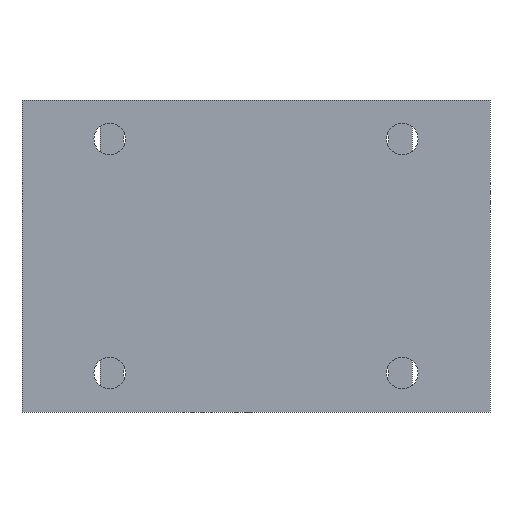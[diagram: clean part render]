
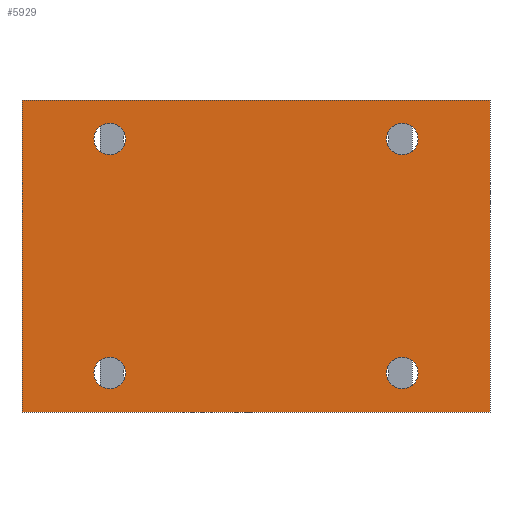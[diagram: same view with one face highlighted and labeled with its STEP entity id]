
A CAD part, front view. The second image highlights one B-rep face of the part: STEP entity #5929.
In plain terms, the highlighted planar face has unit normal (0, -1, 0).
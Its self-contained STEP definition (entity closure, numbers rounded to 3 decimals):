
#394=FACE_BOUND('',#966,.T.);
#395=FACE_BOUND('',#967,.T.);
#396=FACE_BOUND('',#968,.T.);
#397=FACE_BOUND('',#969,.T.);
#461=PLANE('',#6376);
#602=FACE_OUTER_BOUND('',#965,.T.);
#965=EDGE_LOOP('',(#4083,#4084,#4085,#4086));
#966=EDGE_LOOP('',(#4087));
#967=EDGE_LOOP('',(#4088));
#968=EDGE_LOOP('',(#4089));
#969=EDGE_LOOP('',(#4090));
#1383=LINE('',#8492,#1834);
#1387=LINE('',#8500,#1838);
#1390=LINE('',#8506,#1841);
#1393=LINE('',#8511,#1844);
#1834=VECTOR('',#7018,10.);
#1838=VECTOR('',#7024,10.);
#1841=VECTOR('',#7029,10.);
#1844=VECTOR('',#7034,10.);
#2246=CIRCLE('',#6361,10.3);
#2248=CIRCLE('',#6364,10.3);
#2250=CIRCLE('',#6367,10.3);
#2252=CIRCLE('',#6370,10.3);
#2435=VERTEX_POINT('',#8468);
#2437=VERTEX_POINT('',#8474);
#2439=VERTEX_POINT('',#8480);
#2441=VERTEX_POINT('',#8486);
#2442=VERTEX_POINT('',#8490);
#2443=VERTEX_POINT('',#8491);
#2446=VERTEX_POINT('',#8499);
#2448=VERTEX_POINT('',#8505);
#3057=EDGE_CURVE('',#2435,#2435,#2246,.T.);
#3060=EDGE_CURVE('',#2437,#2437,#2248,.T.);
#3063=EDGE_CURVE('',#2439,#2439,#2250,.T.);
#3066=EDGE_CURVE('',#2441,#2441,#2252,.T.);
#3067=EDGE_CURVE('',#2442,#2443,#1383,.T.);
#3071=EDGE_CURVE('',#2443,#2446,#1387,.T.);
#3074=EDGE_CURVE('',#2446,#2448,#1390,.T.);
#3077=EDGE_CURVE('',#2448,#2442,#1393,.T.);
#4083=ORIENTED_EDGE('',*,*,#3077,.T.);
#4084=ORIENTED_EDGE('',*,*,#3067,.T.);
#4085=ORIENTED_EDGE('',*,*,#3071,.T.);
#4086=ORIENTED_EDGE('',*,*,#3074,.T.);
#4087=ORIENTED_EDGE('',*,*,#3066,.F.);
#4088=ORIENTED_EDGE('',*,*,#3063,.F.);
#4089=ORIENTED_EDGE('',*,*,#3060,.F.);
#4090=ORIENTED_EDGE('',*,*,#3057,.F.);
#5929=ADVANCED_FACE('',(#602,#394,#395,#396,#397),#461,.F.);
#6361=AXIS2_PLACEMENT_3D('',#8470,#6993,#6994);
#6364=AXIS2_PLACEMENT_3D('',#8476,#7000,#7001);
#6367=AXIS2_PLACEMENT_3D('',#8482,#7007,#7008);
#6370=AXIS2_PLACEMENT_3D('',#8488,#7014,#7015);
#6376=AXIS2_PLACEMENT_3D('',#8514,#7038,#7039);
#6993=DIRECTION('center_axis',(0.,-1.,0.));
#6994=DIRECTION('ref_axis',(1.,0.,0.));
#7000=DIRECTION('center_axis',(0.,-1.,0.));
#7001=DIRECTION('ref_axis',(1.,0.,0.));
#7007=DIRECTION('center_axis',(0.,-1.,0.));
#7008=DIRECTION('ref_axis',(1.,0.,0.));
#7014=DIRECTION('center_axis',(0.,-1.,0.));
#7015=DIRECTION('ref_axis',(1.,0.,0.));
#7018=DIRECTION('',(0.,0.,1.));
#7024=DIRECTION('',(-1.,0.,0.));
#7029=DIRECTION('',(0.,0.,-1.));
#7034=DIRECTION('',(1.,0.,0.));
#7038=DIRECTION('center_axis',(0.,1.,0.));
#7039=DIRECTION('ref_axis',(1.,0.,0.));
#8468=CARTESIAN_POINT('',(-105.55,0.,-76.2));
#8470=CARTESIAN_POINT('Origin',(-95.25,0.,-76.2));
#8474=CARTESIAN_POINT('',(-105.55,0.,76.2));
#8476=CARTESIAN_POINT('Origin',(-95.25,0.,76.2));
#8480=CARTESIAN_POINT('',(84.95,0.,-76.2));
#8482=CARTESIAN_POINT('Origin',(95.25,0.,-76.2));
#8486=CARTESIAN_POINT('',(84.95,0.,76.2));
#8488=CARTESIAN_POINT('Origin',(95.25,0.,76.2));
#8490=CARTESIAN_POINT('',(152.4,0.,-101.6));
#8491=CARTESIAN_POINT('',(152.4,0.,101.6));
#8492=CARTESIAN_POINT('',(152.4,0.,-101.6));
#8499=CARTESIAN_POINT('',(-152.4,0.,101.6));
#8500=CARTESIAN_POINT('',(152.4,0.,101.6));
#8505=CARTESIAN_POINT('',(-152.4,0.,-101.6));
#8506=CARTESIAN_POINT('',(-152.4,0.,101.6));
#8511=CARTESIAN_POINT('',(-152.4,0.,-101.6));
#8514=CARTESIAN_POINT('Origin',(0.,0.,0.));
